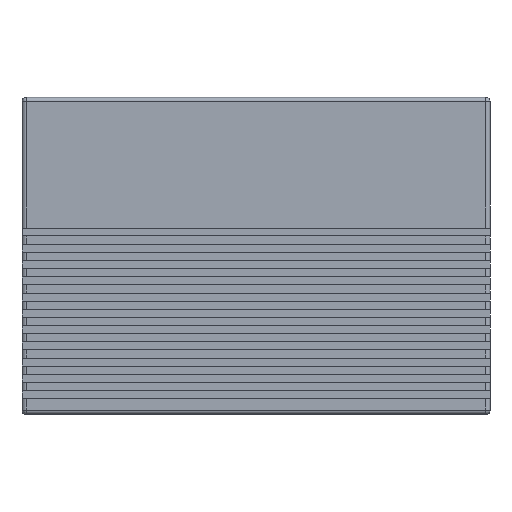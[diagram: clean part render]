
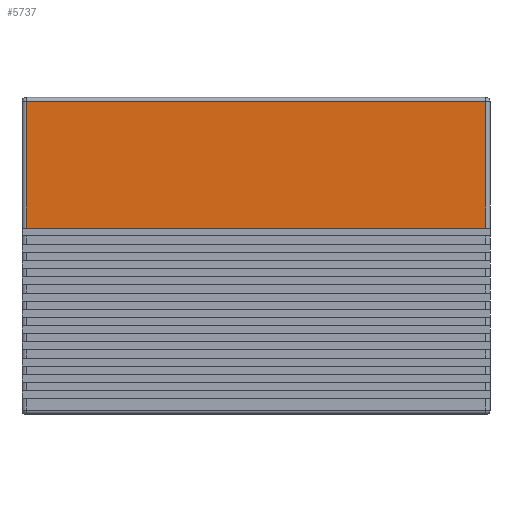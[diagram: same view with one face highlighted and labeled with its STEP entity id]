
A CAD part, top view. The second image highlights one B-rep face of the part: STEP entity #5737.
In plain terms, the highlighted planar face has unit normal (0, 0, 1).
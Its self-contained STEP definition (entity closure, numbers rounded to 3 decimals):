
#171 = CARTESIAN_POINT ( 'NONE',  ( 0., 0., 19.4 ) ) ;
#236 = LINE ( 'NONE', #4397, #459 ) ;
#309 = VECTOR ( 'NONE', #6625, 1000. ) ;
#349 = EDGE_CURVE ( 'NONE', #3398, #3242, #236, .T. ) ;
#361 = LINE ( 'NONE', #438, #309 ) ;
#438 = CARTESIAN_POINT ( 'NONE',  ( 0., 57.5, 19.4 ) ) ;
#459 = VECTOR ( 'NONE', #1317, 1000. ) ;
#909 = ORIENTED_EDGE ( 'NONE', *, *, #3872, .T. ) ;
#1108 = ORIENTED_EDGE ( 'NONE', *, *, #349, .F. ) ;
#1317 = DIRECTION ( 'NONE',  ( -1., 0., 0. ) ) ;
#1709 = CARTESIAN_POINT ( 'NONE',  ( 86.3, 0., 19.4 ) ) ;
#1795 = PLANE ( 'NONE',  #4596 ) ;
#2239 = DIRECTION ( 'NONE',  ( 1., 0., 0. ) ) ;
#2377 = DIRECTION ( 'NONE',  ( 0., 0., 1. ) ) ;
#2653 = CARTESIAN_POINT ( 'NONE',  ( -1.3, 33.4, 19.4 ) ) ;
#3163 = VERTEX_POINT ( 'NONE', #6513 ) ;
#3203 = LINE ( 'NONE', #4155, #3452 ) ;
#3242 = VERTEX_POINT ( 'NONE', #2653 ) ;
#3385 = ORIENTED_EDGE ( 'NONE', *, *, #5164, .T. ) ;
#3398 = VERTEX_POINT ( 'NONE', #5858 ) ;
#3452 = VECTOR ( 'NONE', #3710, 1000. ) ;
#3710 = DIRECTION ( 'NONE',  ( 0., -1., 0. ) ) ;
#3872 = EDGE_CURVE ( 'NONE', #3163, #5065, #361, .T. ) ;
#3983 = EDGE_CURVE ( 'NONE', #5065, #3242, #3203, .T. ) ;
#4113 = EDGE_LOOP ( 'NONE', ( #3385, #909, #4972, #1108 ) ) ;
#4155 = CARTESIAN_POINT ( 'NONE',  ( -1.3, 0., 19.4 ) ) ;
#4156 = DIRECTION ( 'NONE',  ( 0., 1., 0. ) ) ;
#4397 = CARTESIAN_POINT ( 'NONE',  ( 0., 33.4, 19.4 ) ) ;
#4596 = AXIS2_PLACEMENT_3D ( 'NONE', #171, #2377, #2239 ) ;
#4950 = FACE_OUTER_BOUND ( 'NONE', #4113, .T. ) ;
#4972 = ORIENTED_EDGE ( 'NONE', *, *, #3983, .T. ) ;
#5065 = VERTEX_POINT ( 'NONE', #5615 ) ;
#5164 = EDGE_CURVE ( 'NONE', #3398, #3163, #6312, .T. ) ;
#5284 = VECTOR ( 'NONE', #4156, 1000. ) ;
#5615 = CARTESIAN_POINT ( 'NONE',  ( -1.3, 57.5, 19.4 ) ) ;
#5737 = ADVANCED_FACE ( 'NONE', ( #4950 ), #1795, .T. ) ;
#5858 = CARTESIAN_POINT ( 'NONE',  ( 86.3, 33.4, 19.4 ) ) ;
#6312 = LINE ( 'NONE', #1709, #5284 ) ;
#6513 = CARTESIAN_POINT ( 'NONE',  ( 86.3, 57.5, 19.4 ) ) ;
#6625 = DIRECTION ( 'NONE',  ( -1., 0., 0. ) ) ;
